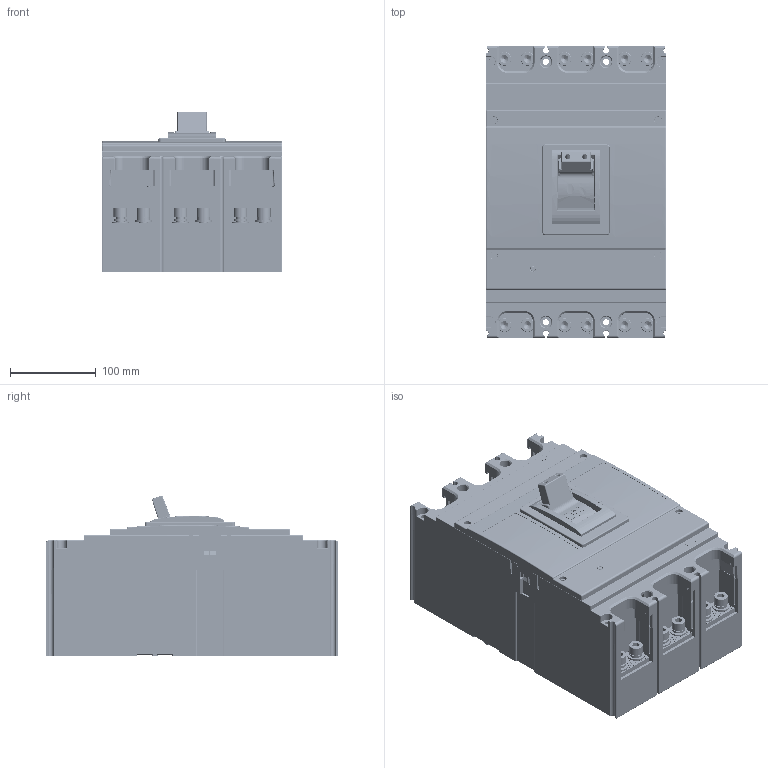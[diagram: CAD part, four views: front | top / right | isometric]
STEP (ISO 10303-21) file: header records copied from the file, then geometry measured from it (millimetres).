
FILE_DESCRIPTION((''),'2;1');
FILE_NAME('DLX-STM6-1600-3P_SCY-400-JB-XJX_ASM','2025-11-04T',('youjie.zhu'),(''),'PRO/ENGINEER BY PARAMETRIC TECHNOLOGY CORPORATION, 2015440','PRO/ENGINEER BY PARAMETRIC TECHNOLOGY CORPORATION, 2015440','');
FILE_SCHEMA(('CONFIG_CONTROL_DESIGN'));
Products named in the file (59): BREP_WITH_VOIDS_464; BREP_WITH_VOIDS_465; BREP_WITH_VOIDS_466; MANIFOLD_SOLID_BREP_1896; MANIFOLD_SOLID_BREP_1899; MANIFOLD_SOLID_BREP_1904; MANIFOLD_SOLID_BREP_1905; MANIFOLD_SOLID_BREP_1906; MANIFOLD_SOLID_BREP_1907; MANIFOLD_SOLID_BREP_1908; MANIFOLD_SOLID_BREP_1909; MANIFOLD_SOLID_BREP_1911; MANIFOLD_SOLID_BREP_1914; MANIFOLD_SOLID_BREP_1915; MANIFOLD_SOLID_BREP_1918; MANIFOLD_SOLID_BREP_1919; MANIFOLD_SOLID_BREP_1920; MANIFOLD_SOLID_BREP_1923; MANIFOLD_SOLID_BREP_1925; MANIFOLD_SOLID_BREP_1926; MANIFOLD_SOLID_BREP_1927; MANIFOLD_SOLID_BREP_1928; MANIFOLD_SOLID_BREP_1929; MANIFOLD_SOLID_BREP_1930; MANIFOLD_SOLID_BREP_1932; MANIFOLD_SOLID_BREP_1933; MANIFOLD_SOLID_BREP_1935; MANIFOLD_SOLID_BREP_1936; MANIFOLD_SOLID_BREP_1937; MANIFOLD_SOLID_BREP_1938; MANIFOLD_SOLID_BREP_1940; MANIFOLD_SOLID_BREP_1941; MANIFOLD_SOLID_BREP_1942; MANIFOLD_SOLID_BREP_1944; MANIFOLD_SOLID_BREP_1947; MANIFOLD_SOLID_BREP_1948; MANIFOLD_SOLID_BREP_1950; MANIFOLD_SOLID_BREP_1953; MANIFOLD_SOLID_BREP_1955; MANIFOLD_SOLID_BREP_1957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
Assembly tree (58 placements, depth 3):
  DLX-STM6-1600-3P_SCY-400-JB-XJX_ASM
    PC9E53Z186_ASM
      BREP_WITH_VOIDS_464
      BREP_WITH_VOIDS_465
      BREP_WITH_VOIDS_466
      MANIFOLD_SOLID_BREP_1896
      MANIFOLD_SOLID_BREP_1899
      MANIFOLD_SOLID_BREP_1904
      MANIFOLD_SOLID_BREP_1905
      MANIFOLD_SOLID_BREP_1906
      MANIFOLD_SOLID_BREP_1907
      MANIFOLD_SOLID_BREP_1908
      MANIFOLD_SOLID_BREP_1909
      MANIFOLD_SOLID_BREP_1911
      MANIFOLD_SOLID_BREP_1914
      MANIFOLD_SOLID_BREP_1915
      MANIFOLD_SOLID_BREP_1918
      MANIFOLD_SOLID_BREP_1919
      MANIFOLD_SOLID_BREP_1920
      MANIFOLD_SOLID_BREP_1923
      MANIFOLD_SOLID_BREP_1925
      MANIFOLD_SOLID_BREP_1926
      MANIFOLD_SOLID_BREP_1927
      MANIFOLD_SOLID_BREP_1928
      MANIFOLD_SOLID_BREP_1929
      MANIFOLD_SOLID_BREP_1930
      MANIFOLD_SOLID_BREP_1932
      MANIFOLD_SOLID_BREP_1933
      MANIFOLD_SOLID_BREP_1935
      MANIFOLD_SOLID_BREP_1936
      MANIFOLD_SOLID_BREP_1937
      MANIFOLD_SOLID_BREP_1938
      MANIFOLD_SOLID_BREP_1940
      MANIFOLD_SOLID_BREP_1941
      MANIFOLD_SOLID_BREP_1942
      MANIFOLD_SOLID_BREP_1944
      MANIFOLD_SOLID_BREP_1947
      MANIFOLD_SOLID_BREP_1948
      MANIFOLD_SOLID_BREP_1950
      MANIFOLD_SOLID_BREP_1953
      MANIFOLD_SOLID_BREP_1955
      MANIFOLD_SOLID_BREP_1957
      MANIFOLD_SOLID_BREP_1958
      MANIFOLD_SOLID_BREP_1960
      MANIFOLD_SOLID_BREP_1961
      MANIFOLD_SOLID_BREP_1962
      MANIFOLD_SOLID_BREP_1963
      MANIFOLD_SOLID_BREP_1964
      MANIFOLD_SOLID_BREP_1965
      MANIFOLD_SOLID_BREP_1966
      MANIFOLD_SOLID_BREP_1967
      MANIFOLD_SOLID_BREP_1968
      MANIFOLD_SOLID_BREP_1969
      MANIFOLD_SOLID_BREP_1970
      MANIFOLD_SOLID_BREP_1971
      MANIFOLD_SOLID_BREP_1972
      MANIFOLD_SOLID_BREP_1973
      MANIFOLD_SOLID_BREP_1974
      MANIFOLD_SOLID_BREP_1975
Bounding box: 210 x 340 x 187.13 mm (x, y, z)
Volume: 1454925.7 mm3; surface area: 1244593.6 mm2
Topology: 58 solids, 61 shells, 15522 faces, 40410 edges, 26669 vertices
Faces by surface type: plane 12786, cylinder 1865, cone 261, sphere 261, torus 191, bspline 144, extrusion 14
Full cylindrical faces by diameter (mm): 7.2 x1
Entity records: 480603 total; most frequent: CARTESIAN_POINT 94586, ORIENTED_EDGE 80138, DIRECTION 76321, EDGE_CURVE 40071, VECTOR 33413, LINE 33399, VERTEX_POINT 26669, AXIS2_PLACEMENT_3D 21454
